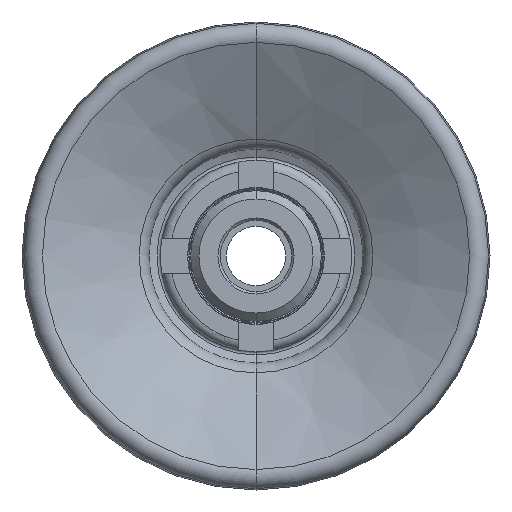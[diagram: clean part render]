
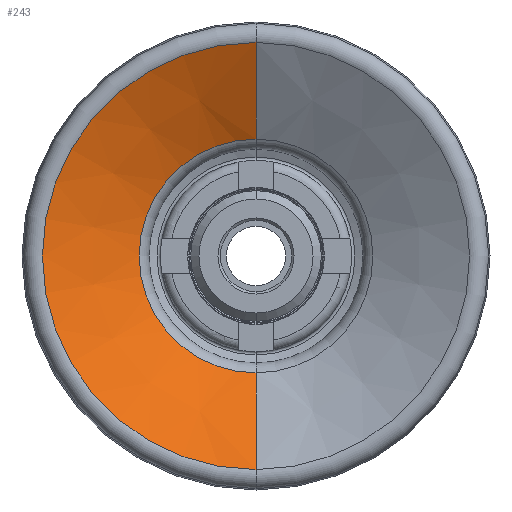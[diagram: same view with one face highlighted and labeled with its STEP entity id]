
A CAD part, front view. The second image highlights one B-rep face of the part: STEP entity #243.
In plain terms, the highlighted conical face has half-angle 61.707 degrees and reference radius 9.838 mm.
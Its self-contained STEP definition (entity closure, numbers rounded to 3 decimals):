
#109 = AXIS2_PLACEMENT_3D ( 'NONE', #3378, #4615, #6984 ) ;
#227 = CARTESIAN_POINT ( 'NONE',  ( 0., -28.869, 0. ) ) ;
#243 = ADVANCED_FACE ( 'NONE', ( #5134 ), #6385, .F. ) ;
#1541 = AXIS2_PLACEMENT_3D ( 'NONE', #227, #6958, #2665 ) ;
#1886 = CIRCLE ( 'NONE', #109, 9.838 ) ;
#1901 = AXIS2_PLACEMENT_3D ( 'NONE', #6456, #2174, #5819 ) ;
#2174 = DIRECTION ( 'NONE',  ( 0., -1., 0. ) ) ;
#2451 = VECTOR ( 'NONE', #6796, 1000. ) ;
#2665 = DIRECTION ( 'NONE',  ( 0., 0., 1. ) ) ;
#2754 = ORIENTED_EDGE ( 'NONE', *, *, #2813, .T. ) ;
#2813 = EDGE_CURVE ( 'NONE', #3084, #6224, #5297, .T. ) ;
#3044 = VERTEX_POINT ( 'NONE', #6060 ) ;
#3084 = VERTEX_POINT ( 'NONE', #6587 ) ;
#3378 = CARTESIAN_POINT ( 'NONE',  ( 0., -24.486, 0. ) ) ;
#3464 = CIRCLE ( 'NONE', #1541, 17.979 ) ;
#3900 = ORIENTED_EDGE ( 'NONE', *, *, #5118, .F. ) ;
#3956 = DIRECTION ( 'NONE',  ( 0., -0.474, 0.881 ) ) ;
#4003 = CARTESIAN_POINT ( 'NONE',  ( 0., -24.486, -9.838 ) ) ;
#4482 = VERTEX_POINT ( 'NONE', #4003 ) ;
#4615 = DIRECTION ( 'NONE',  ( 0., 1., 0. ) ) ;
#4664 = CARTESIAN_POINT ( 'NONE',  ( 0., -24.486, 9.838 ) ) ;
#4911 = LINE ( 'NONE', #7361, #2451 ) ;
#5118 = EDGE_CURVE ( 'NONE', #4482, #3044, #4911, .T. ) ;
#5134 = FACE_OUTER_BOUND ( 'NONE', #6925, .T. ) ;
#5201 = VECTOR ( 'NONE', #3956, 1000. ) ;
#5297 = LINE ( 'NONE', #4664, #5201 ) ;
#5819 = DIRECTION ( 'NONE',  ( 0., 0., -1. ) ) ;
#6010 = ORIENTED_EDGE ( 'NONE', *, *, #6928, .F. ) ;
#6015 = EDGE_CURVE ( 'NONE', #4482, #3084, #1886, .T. ) ;
#6060 = CARTESIAN_POINT ( 'NONE',  ( 0., -28.869, -17.979 ) ) ;
#6224 = VERTEX_POINT ( 'NONE', #6618 ) ;
#6385 = CONICAL_SURFACE ( 'NONE', #1901, 9.838, 1.077 ) ;
#6456 = CARTESIAN_POINT ( 'NONE',  ( 0., -24.486, 0. ) ) ;
#6587 = CARTESIAN_POINT ( 'NONE',  ( 0., -24.486, 9.838 ) ) ;
#6618 = CARTESIAN_POINT ( 'NONE',  ( 0., -28.869, 17.979 ) ) ;
#6796 = DIRECTION ( 'NONE',  ( 0., -0.474, -0.881 ) ) ;
#6925 = EDGE_LOOP ( 'NONE', ( #6985, #2754, #6010, #3900 ) ) ;
#6928 = EDGE_CURVE ( 'NONE', #3044, #6224, #3464, .T. ) ;
#6958 = DIRECTION ( 'NONE',  ( 0., 1., 0. ) ) ;
#6984 = DIRECTION ( 'NONE',  ( 0., 0., 1. ) ) ;
#6985 = ORIENTED_EDGE ( 'NONE', *, *, #6015, .T. ) ;
#7361 = CARTESIAN_POINT ( 'NONE',  ( 0., -24.486, -9.838 ) ) ;
